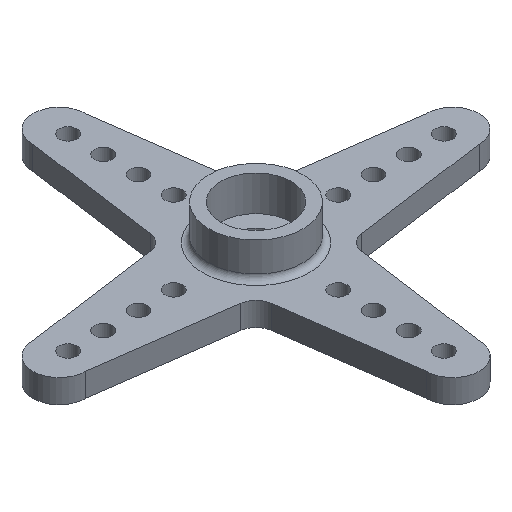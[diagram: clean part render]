
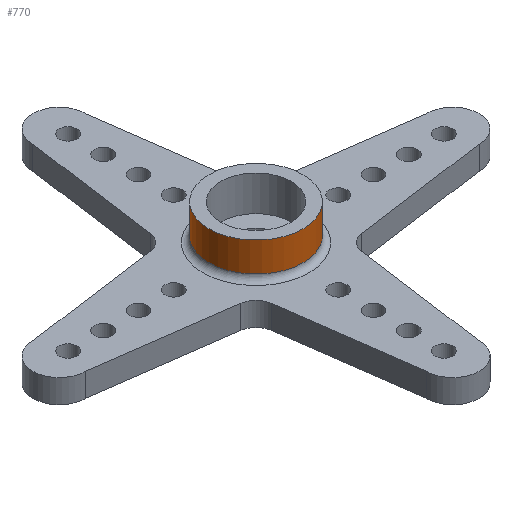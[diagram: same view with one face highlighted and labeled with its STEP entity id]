
A CAD part, isometric view. The second image highlights one B-rep face of the part: STEP entity #770.
In plain terms, the highlighted cylindrical face has radius 4 mm (diameter 8 mm), a full revolution.
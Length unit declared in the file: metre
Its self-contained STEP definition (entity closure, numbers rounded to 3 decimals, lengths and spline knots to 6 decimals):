
#37=CYLINDRICAL_SURFACE('',#879,0.004);
#270=ORIENTED_EDGE('',*,*,#372,.T.);
#271=ORIENTED_EDGE('',*,*,#370,.F.);
#370=EDGE_CURVE('',#445,#445,#504,.T.);
#372=EDGE_CURVE('',#447,#447,#506,.F.);
#445=VERTEX_POINT('',#1320);
#447=VERTEX_POINT('',#1325);
#504=CIRCLE('',#877,0.004);
#506=CIRCLE('',#880,0.004);
#599=EDGE_LOOP('',(#270));
#600=EDGE_LOOP('',(#271));
#703=FACE_BOUND('',#599,.T.);
#704=FACE_BOUND('',#600,.T.);
#770=ADVANCED_FACE('',(#703,#704),#37,.T.);
#877=AXIS2_PLACEMENT_3D('',#1319,#1099,#1100);
#879=AXIS2_PLACEMENT_3D('',#1323,#1103,#1104);
#880=AXIS2_PLACEMENT_3D('',#1324,#1105,#1106);
#1099=DIRECTION('',(0.,0.,1.));
#1100=DIRECTION('',(1.,0.,0.));
#1103=DIRECTION('',(0.,0.,-1.));
#1104=DIRECTION('',(-1.,0.,0.));
#1105=DIRECTION('',(0.,0.,-1.));
#1106=DIRECTION('',(-1.,0.,0.));
#1319=CARTESIAN_POINT('',(0.,0.,0.005));
#1320=CARTESIAN_POINT('',(0.004,0.,0.005));
#1323=CARTESIAN_POINT('',(0.,0.,0.005));
#1324=CARTESIAN_POINT('',(0.,0.,0.0025));
#1325=CARTESIAN_POINT('',(-0.004,0.,0.0025));
